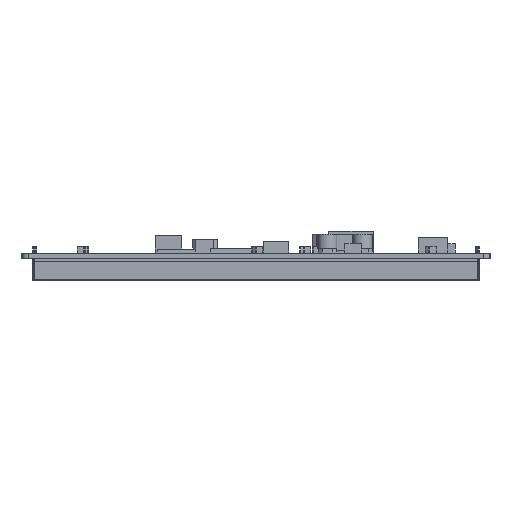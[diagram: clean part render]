
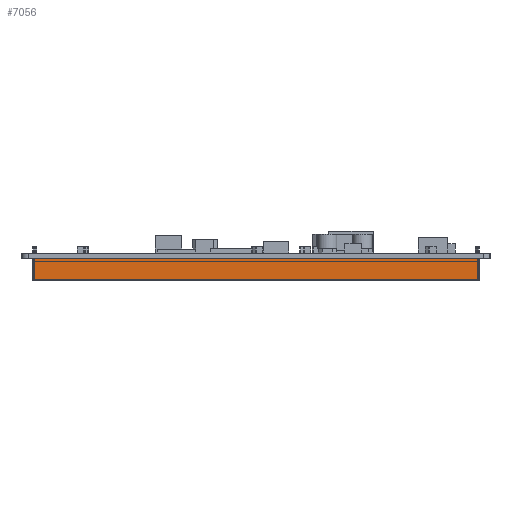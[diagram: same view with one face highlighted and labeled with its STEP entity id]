
A CAD part, left-side view. The second image highlights one B-rep face of the part: STEP entity #7056.
In plain terms, the highlighted planar face has unit normal (-1, 0, 0).
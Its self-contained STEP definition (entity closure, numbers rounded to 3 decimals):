
#7056=ADVANCED_FACE('',(#11377),#9249,.F.);
#9249=PLANE('',#41604);
#11377=FACE_OUTER_BOUND('',#13647,.T.);
#13647=EDGE_LOOP('',(#21665,#21666,#21667,#21668));
#21665=ORIENTED_EDGE('',*,*,#30137,.F.);
#21666=ORIENTED_EDGE('',*,*,#30138,.T.);
#21667=ORIENTED_EDGE('',*,*,#30139,.T.);
#21668=ORIENTED_EDGE('',*,*,#30140,.T.);
#25785=VERTEX_POINT('',#59976);
#25786=VERTEX_POINT('',#59977);
#25787=VERTEX_POINT('',#59979);
#25788=VERTEX_POINT('',#59981);
#30137=EDGE_CURVE('',#25785,#25786,#34663,.T.);
#30138=EDGE_CURVE('',#25785,#25787,#34664,.T.);
#30139=EDGE_CURVE('',#25787,#25788,#34665,.T.);
#30140=EDGE_CURVE('',#25788,#25786,#34666,.T.);
#34663=LINE('',#59975,#39051);
#34664=LINE('',#59978,#39052);
#34665=LINE('',#59980,#39053);
#34666=LINE('',#59982,#39054);
#39051=VECTOR('',#49680,1.);
#39052=VECTOR('',#49681,1.);
#39053=VECTOR('',#49682,1.);
#39054=VECTOR('',#49683,1.);
#41604=AXIS2_PLACEMENT_3D('',#59983,#49684,#49685);
#49680=DIRECTION('',(0.,0.,1.));
#49681=DIRECTION('',(0.,-1.,0.));
#49682=DIRECTION('',(0.,0.,1.));
#49683=DIRECTION('',(0.,1.,0.));
#49684=DIRECTION('',(1.,0.,0.));
#49685=DIRECTION('',(0.,1.,0.));
#59975=CARTESIAN_POINT('',(-84.85,74.48,-8.8));
#59976=CARTESIAN_POINT('',(-84.85,74.48,-8.4));
#59977=CARTESIAN_POINT('',(-84.85,74.48,-1.6));
#59978=CARTESIAN_POINT('',(-84.85,-66.52,-8.4));
#59979=CARTESIAN_POINT('',(-84.85,-66.52,-8.4));
#59980=CARTESIAN_POINT('',(-84.85,-66.52,-8.8));
#59981=CARTESIAN_POINT('',(-84.85,-66.52,-1.6));
#59982=CARTESIAN_POINT('',(-84.85,-66.52,-1.6));
#59983=CARTESIAN_POINT('',(-84.85,-66.52,-8.8));
